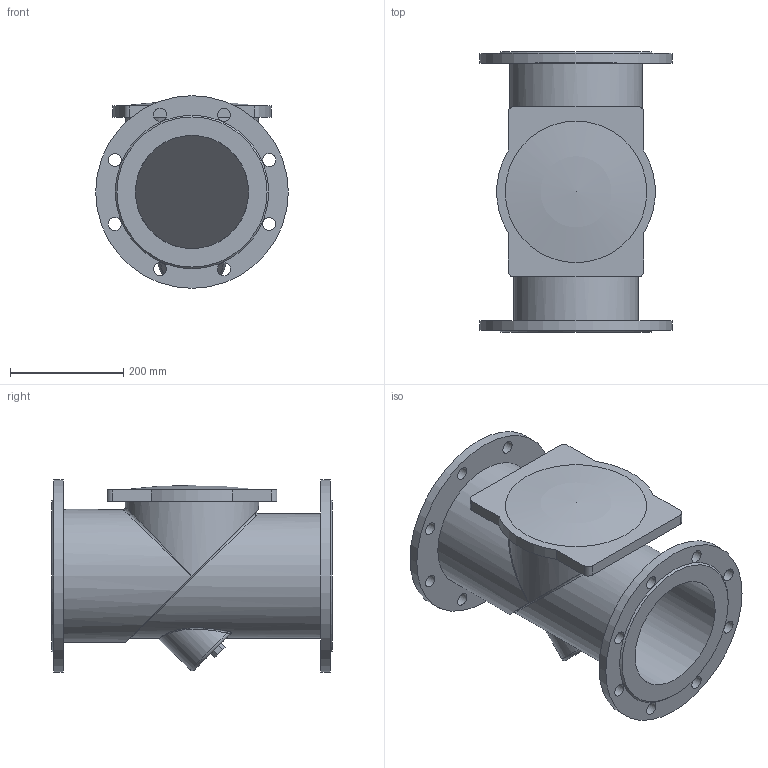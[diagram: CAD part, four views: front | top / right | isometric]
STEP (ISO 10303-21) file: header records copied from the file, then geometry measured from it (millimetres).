
FILE_DESCRIPTION(('STEP AP203'), '1');
FILE_NAME('Êëàïàí îäíîñòâîð÷àòûé îáðàòíûé ôëàíöåâûé 015F.Z DN200 PN10', '', ('UNSPECIFIED'), ('UNSPECIFIED'), 'ASCON STEP Converter 1.6', 'ASCON Math Kernel', '');
FILE_SCHEMA(('CONFIG_CONTROL_DESIGN'));
Length unit declared in the file: millimetre
Bounding box: 340 x 495 x 340 mm (x, y, z)
Volume: 8892769.2 mm3; surface area: 1161319.8 mm2
Topology: 1 solids, 2 shells, 70 faces, 159 edges, 102 vertices
Faces by surface type: cylinder 33, plane 27, bspline 6, cone 2, torus 1, sphere 1
Full cylindrical faces by diameter (mm): 23 x16, 200 x2, 215 x1, 220 x1, 235 x2, 340 x2
Entity records: 4041 total; most frequent: CARTESIAN_POINT 1946, DIRECTION 298, ORIENTED_EDGE 256, EDGE_LOOP 141, AXIS2_PLACEMENT_3D 128, EDGE_CURVE 128, VERTEX_POINT 101, FACE_BOUND 88
